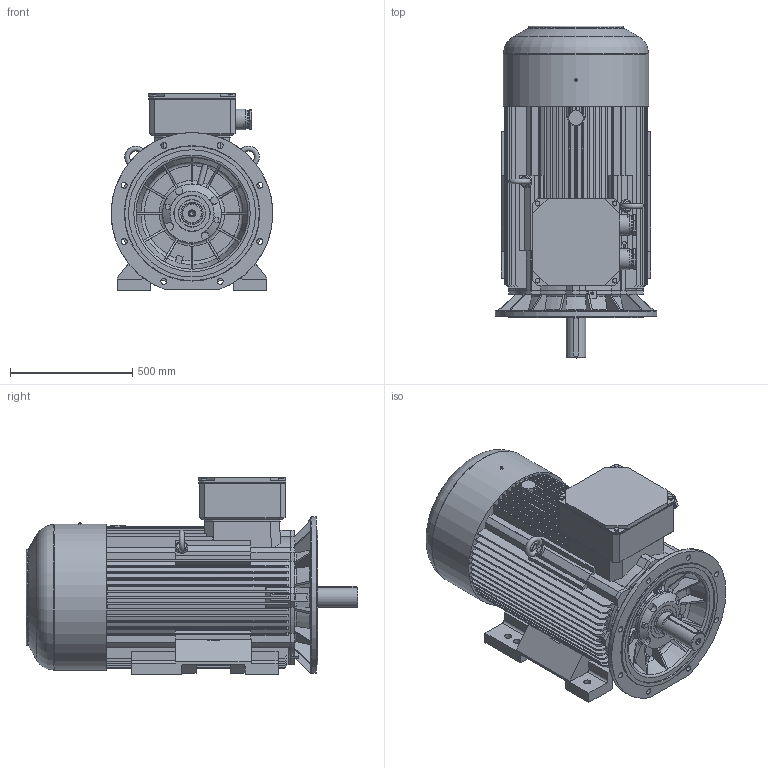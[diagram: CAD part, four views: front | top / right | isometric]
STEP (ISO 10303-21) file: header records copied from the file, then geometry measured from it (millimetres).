
FILE_DESCRIPTION( ( 'Unknown' ), '1' );
FILE_NAME( 'P:/3D_Bry³y silników skatalogowane/SIE/2SIE315/STP_2SIE315/2SIEL315_M6B.stp', 'Unknown', ( 'Unknown' ), ( 'Unknown' ), 'XStep 1.0', 'Unknown', ' ' );
FILE_SCHEMA( ( 'CONFIG_CONTROL_DESIGN' ) );
Length unit declared in the file: millimetre
Products named in the file (6): 1; 2; 3; 4; 5; 6
Bounding box: 660 x 1354.99 x 804.5 mm (x, y, z)
Volume: 298842094.4 mm3; surface area: 7578117.4 mm2
Topology: 6 solids, 22 shells, 1438 faces, 3916 edges, 2577 vertices
Faces by surface type: plane 894, cylinder 300, cone 121, torus 107, bspline 16
Full cylindrical faces by diameter (mm): 1.6 x2, 5 x4, 10.106 x4, 13.835 x1, 16.63 x4, 17.294 x1, 20 x1, 21 x1, 24 x12, 28 x6, 50 x2, 55 x2, 57 x4, 65 x4, 70 x2, 71 x6, 72 x2, 72.752 x2, 76 x2, 79.999 x1, 85 x2, 89.5 x1, 90 x1, 99.4 x1, 100 x1, 111.399 x1, 112 x1, 119.4 x1, 119.999 x1, 131.399 x1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
Entity records: 54465 total; most frequent: CARTESIAN_POINT 18785, ORIENTED_EDGE 7424, DIRECTION 7122, EDGE_CURVE 3712, VERTEX_POINT 2521, AXIS2_PLACEMENT_3D 2447, LINE 2228, VECTOR 2228
